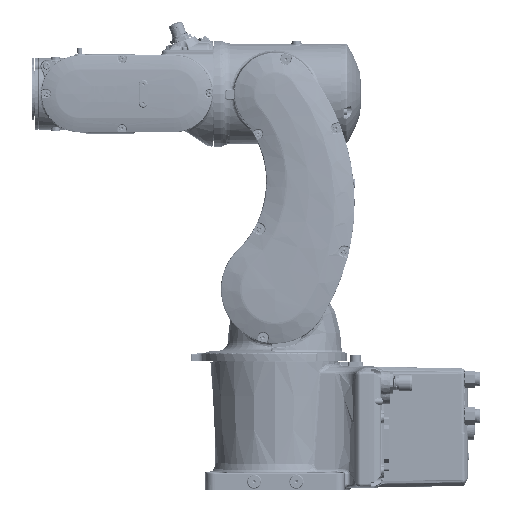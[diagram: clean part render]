
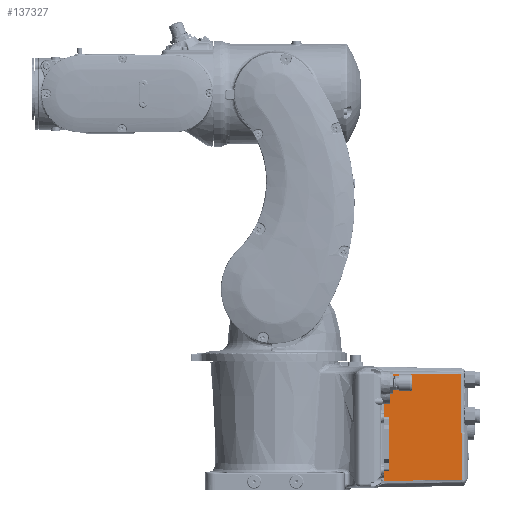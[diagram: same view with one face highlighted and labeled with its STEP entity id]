
A CAD part, left-side view. The second image highlights one B-rep face of the part: STEP entity #137327.
In plain terms, the highlighted planar face has unit normal (-1, -0.018, 0).
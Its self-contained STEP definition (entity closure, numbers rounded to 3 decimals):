
#2674 = CARTESIAN_POINT ( 'NONE',  ( 7.051, -102.948, 8.871 ) ) ;
#11551 = VERTEX_POINT ( 'NONE', #49278 ) ;
#18607 = CARTESIAN_POINT ( 'NONE',  ( 8.327, -176.052, 54.83 ) ) ;
#20624 = B_SPLINE_CURVE_WITH_KNOTS ( 'NONE', 3,
 ( #193951, #111252, #153843, #174532, #93066, #135713, #55442 ),
 .UNSPECIFIED., .F., .F.,
 ( 4, 3, 4 ),
 ( 0., 0.037, 0.074 ),
 .UNSPECIFIED. ) ;
#22708 = LINE ( 'NONE', #178126, #108704 ) ;
#23178 = EDGE_CURVE ( 'NONE', #155674, #11551, #234201, .T. ) ;
#27455 = CARTESIAN_POINT ( 'NONE',  ( 8.336, -176.521, 53.08 ) ) ;
#31095 = DIRECTION ( 'NONE',  ( -0.017, 1., 0. ) ) ;
#44354 = CARTESIAN_POINT ( 'NONE',  ( 7.051, -102.948, 116.782 ) ) ;
#45257 = CARTESIAN_POINT ( 'NONE',  ( 8.327, -176.052, 109.814 ) ) ;
#46356 = EDGE_CURVE ( 'NONE', #192932, #224983, #190353, .T. ) ;
#49278 = CARTESIAN_POINT ( 'NONE',  ( 8.327, -176.052, 54.83 ) ) ;
#50561 = DIRECTION ( 'NONE',  ( -1., -0.017, 0. ) ) ;
#55442 = CARTESIAN_POINT ( 'NONE',  ( 8.341, -176.804, 9.189 ) ) ;
#56882 = VERTEX_POINT ( 'NONE', #2674 ) ;
#72814 = ORIENTED_EDGE ( 'NONE', *, *, #237226, .T. ) ;
#73159 = LINE ( 'NONE', #209081, #174413 ) ;
#75660 = CARTESIAN_POINT ( 'NONE',  ( 8.33, -176.212, 53.615 ) ) ;
#79329 = ORIENTED_EDGE ( 'NONE', *, *, #182547, .T. ) ;
#85613 = CARTESIAN_POINT ( 'NONE',  ( 8.341, -176.804, 52.591 ) ) ;
#93066 = CARTESIAN_POINT ( 'NONE',  ( 7.91, -152.143, 9.089 ) ) ;
#108704 = VECTOR ( 'NONE', #162469, 1000. ) ;
#111252 = CARTESIAN_POINT ( 'NONE',  ( 7.266, -115.236, 8.929 ) ) ;
#112358 = VECTOR ( 'NONE', #208017, 1000. ) ;
#113279 = CARTESIAN_POINT ( 'NONE',  ( 8.336, -176.521, 53.08 ) ) ;
#114897 = ORIENTED_EDGE ( 'NONE', *, *, #23178, .T. ) ;
#126470 = CARTESIAN_POINT ( 'NONE',  ( 8.341, -176.804, 9.189 ) ) ;
#135713 = CARTESIAN_POINT ( 'NONE',  ( 8.125, -164.473, 9.14 ) ) ;
#137327 = ADVANCED_FACE ( 'NONE', ( #189010 ), #231689, .T. ) ;
#139547 = AXIS2_PLACEMENT_3D ( 'NONE', #194121, #50561, #31095 ) ;
#141298 = EDGE_CURVE ( 'NONE', #56882, #198185, #20624, .T. ) ;
#141924 = ORIENTED_EDGE ( 'NONE', *, *, #159783, .T. ) ;
#145099 = ORIENTED_EDGE ( 'NONE', *, *, #184396, .T. ) ;
#152130 = DIRECTION ( 'NONE',  ( 0., 0., 1. ) ) ;
#153843 = CARTESIAN_POINT ( 'NONE',  ( 7.48, -127.524, 8.983 ) ) ;
#155674 = VERTEX_POINT ( 'NONE', #27455 ) ;
#159598 = LINE ( 'NONE', #44354, #178286 ) ;
#159783 = EDGE_CURVE ( 'NONE', #224983, #56882, #159598, .T. ) ;
#160880 = DIRECTION ( 'NONE',  ( 0., 0., -1. ) ) ;
#162469 = DIRECTION ( 'NONE',  ( 0., 0., 1. ) ) ;
#169140 = CARTESIAN_POINT ( 'NONE',  ( 8.327, -176.052, 109.814 ) ) ;
#174413 = VECTOR ( 'NONE', #152130, 1000. ) ;
#174532 = CARTESIAN_POINT ( 'NONE',  ( 7.695, -139.812, 9.036 ) ) ;
#177992 = CARTESIAN_POINT ( 'NONE',  ( 7.051, -102.948, 110.129 ) ) ;
#178126 = CARTESIAN_POINT ( 'NONE',  ( 8.327, -176.052, 59.5 ) ) ;
#178286 = VECTOR ( 'NONE', #160880, 1000. ) ;
#182547 = EDGE_CURVE ( 'NONE', #198185, #208850, #73159, .T. ) ;
#184396 = EDGE_CURVE ( 'NONE', #11551, #192932, #22708, .T. ) ;
#188580 = CARTESIAN_POINT ( 'NONE',  ( 7.52, -129.805, 133.995 ) ) ;
#189010 = FACE_OUTER_BOUND ( 'NONE', #234309, .T. ) ;
#190353 = B_SPLINE_CURVE_WITH_KNOTS ( 'NONE', 3,
 ( #169140, #251939, #213035, #210513 ),
 .UNSPECIFIED., .F., .F.,
 ( 4, 4 ),
 ( 0., 0.073 ),
 .UNSPECIFIED. ) ;
#192932 = VERTEX_POINT ( 'NONE', #45257 ) ;
#193951 = CARTESIAN_POINT ( 'NONE',  ( 7.051, -102.948, 8.871 ) ) ;
#194121 = CARTESIAN_POINT ( 'NONE',  ( 8.327, -176.052, 54.83 ) ) ;
#198185 = VERTEX_POINT ( 'NONE', #126470 ) ;
#208017 = DIRECTION ( 'NONE',  ( -0.009, 0.5, 0.866 ) ) ;
#208850 = VERTEX_POINT ( 'NONE', #85613 ) ;
#209081 = CARTESIAN_POINT ( 'NONE',  ( 8.341, -176.804, 59.5 ) ) ;
#210513 = CARTESIAN_POINT ( 'NONE',  ( 7.051, -102.948, 110.129 ) ) ;
#213035 = CARTESIAN_POINT ( 'NONE',  ( 7.477, -127.316, 110.015 ) ) ;
#213062 = ORIENTED_EDGE ( 'NONE', *, *, #141298, .T. ) ;
#215837 = ORIENTED_EDGE ( 'NONE', *, *, #46356, .T. ) ;
#224983 = VERTEX_POINT ( 'NONE', #177992 ) ;
#228695 = LINE ( 'NONE', #188580, #112358 ) ;
#231003 = CARTESIAN_POINT ( 'NONE',  ( 8.327, -176.052, 54.212 ) ) ;
#231689 = PLANE ( 'NONE',  #139547 ) ;
#234201 =( BOUNDED_CURVE ( )  B_SPLINE_CURVE ( 3, ( #113279, #75660, #231003, #18607 ),
 .UNSPECIFIED., .F., .T. ) 
 B_SPLINE_CURVE_WITH_KNOTS ( ( 4, 4 ),
 ( 5.76, 6.283 ),
 .UNSPECIFIED. ) 
 CURVE ( )  GEOMETRIC_REPRESENTATION_ITEM ( )  RATIONAL_B_SPLINE_CURVE ( ( 1., 0.977, 0.977, 1. ) ) 
 REPRESENTATION_ITEM ( '' )  );
#234309 = EDGE_LOOP ( 'NONE', ( #145099, #215837, #141924, #213062, #79329, #72814, #114897 ) ) ;
#237226 = EDGE_CURVE ( 'NONE', #208850, #155674, #228695, .T. ) ;
#251939 = CARTESIAN_POINT ( 'NONE',  ( 7.902, -151.684, 109.912 ) ) ;
